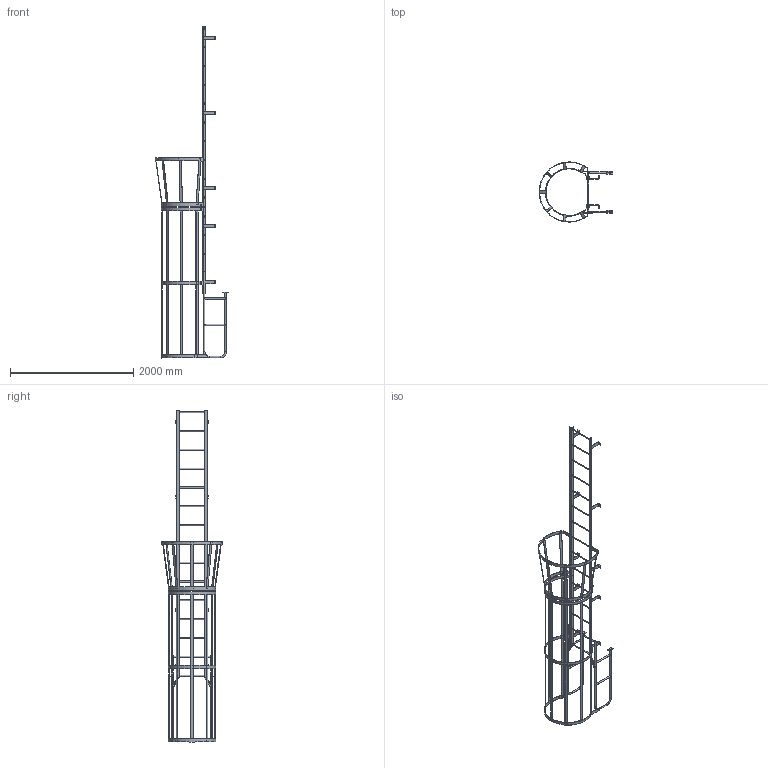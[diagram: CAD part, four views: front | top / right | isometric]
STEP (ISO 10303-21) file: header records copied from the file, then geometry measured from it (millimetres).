
FILE_DESCRIPTION(/* description */ (''),/* implementation_level */ '2;1');
FILE_NAME(/* name */ 'P:\MIKEL & KAREN\D0570196-01 F15WC SIMPLIFIED PART.stp',/* time_stamp */ '2018-07-03T08:14:21-04:00',/* author */ ('stephanie'),/* organization */ (''),/* preprocessor_version */ 'ST-DEVELOPER v16.1',/* originating_system */ 'Autodesk Inventor 2016',/* authorisation */ '');
FILE_SCHEMA (('AUTOMOTIVE_DESIGN { 1 0 10303 214 3 1 1 }'));
Length unit declared in the file: centimetre
Products named in the file (1): D0570196-01 F15WC SIMPLIFIED PART
Bounding box: 1195.62 x 977.88 x 5381.62 mm (x, y, z)
Volume: 16293950.4 mm3; surface area: 6449277.8 mm2
Topology: 21 solids, 21 shells, 622 faces, 1874 edges, 1227 vertices
Faces by surface type: plane 411, cylinder 203, torus 8
Full cylindrical faces by diameter (mm): 10.319 x4, 14.287 x12, 19.05 x15, 22.098 x10, 22.225 x30, 25.4 x10
Entity records: 21568 total; most frequent: CARTESIAN_POINT 3953, ORIENTED_EDGE 3514, DIRECTION 3481, EDGE_CURVE 1739, LINE 1207, VECTOR 1207, VERTEX_POINT 1181, AXIS2_PLACEMENT_3D 1137
